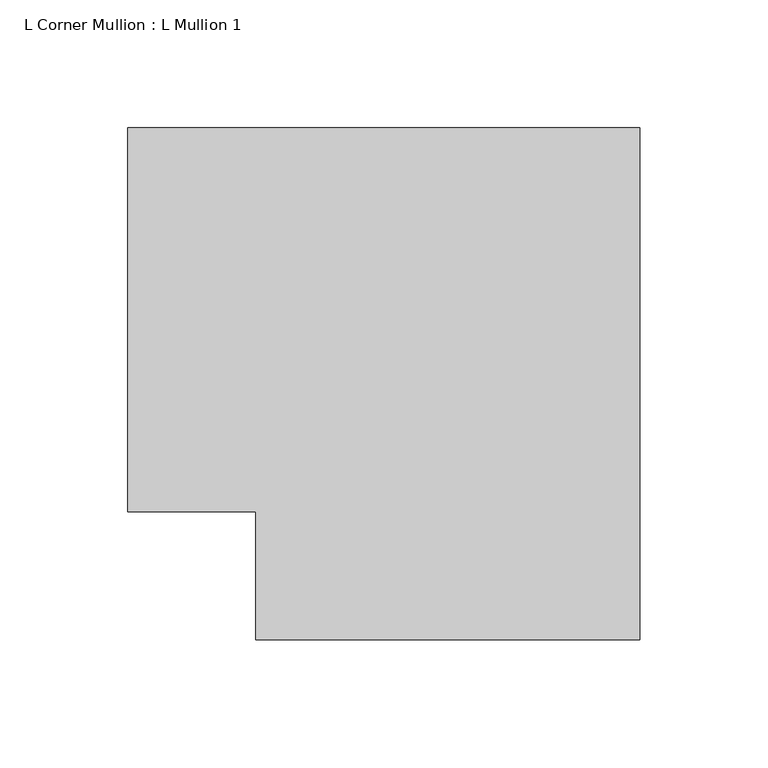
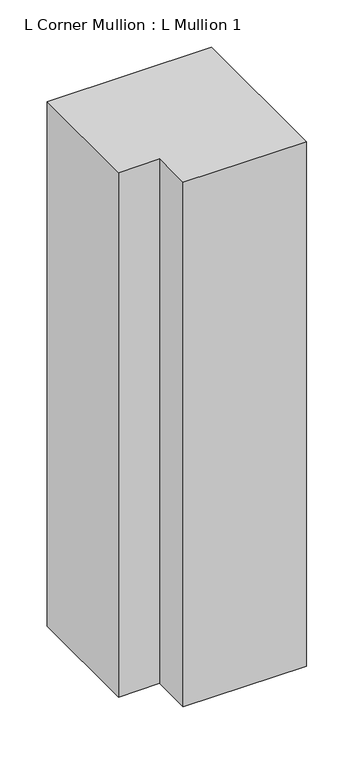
"""IFC4 building model written with IfcOpenShell, lengths in millimetres: member geometry, L Corner Mullion : L Mullion 1."""

from ifc_helpers import new_model, si_unit, frame, origin, place, context, project, spatial, polyline, outline, extrude, source, transform, mapped, element, save


def l_corner_mullion_l_mullion_1_9cd6cbfc(model_context):
    return source(origin(), model_context, "Body", "SweptSolid", [
        extrude(outline(polyline([(-75.0, -125.0), (-75.0, -75.0), (-125.0, -75.0), (-125.0, 75.0), (75.0, 75.0), (75.0, -125.0), (-75.0, -125.0)])), frame((0.0, 0.0, -675.0), z_axis=(0.0, 0.0, 1.0), x_axis=(1.0, 0.0, 0.0)), (0.0, 0.0, 1.0), 675.0),
    ])


if __name__ == "__main__":
    model = new_model("IFC4")
    model_context = context("Model", 3, world=origin())
    ifc_project = project(units=[si_unit("LENGTHUNIT", "METRE", prefix="MILLI")], contexts=[model_context])
    site = spatial("IfcSite", under=ifc_project)
    building = spatial("IfcBuilding", under=site)
    placement = place(None, origin())
    l_corner_mullion_l_mullion_1_shape = l_corner_mullion_l_mullion_1_9cd6cbfc(model_context)
    element("IfcMember", 1, ObjectType="L Corner Mullion : L Mullion 1", at=placement, inside=building, context=model_context, shape_type="MappedRepresentation", body=[
        mapped(l_corner_mullion_l_mullion_1_shape, transform((0.0, 0.0, 0.0), x_axis=(1.0, 0.0, 0.0), y_axis=(0.0, 1.0, 0.0), z_axis=(0.0, 0.0, 1.0))),
    ])
    save(model, "model.ifc")
